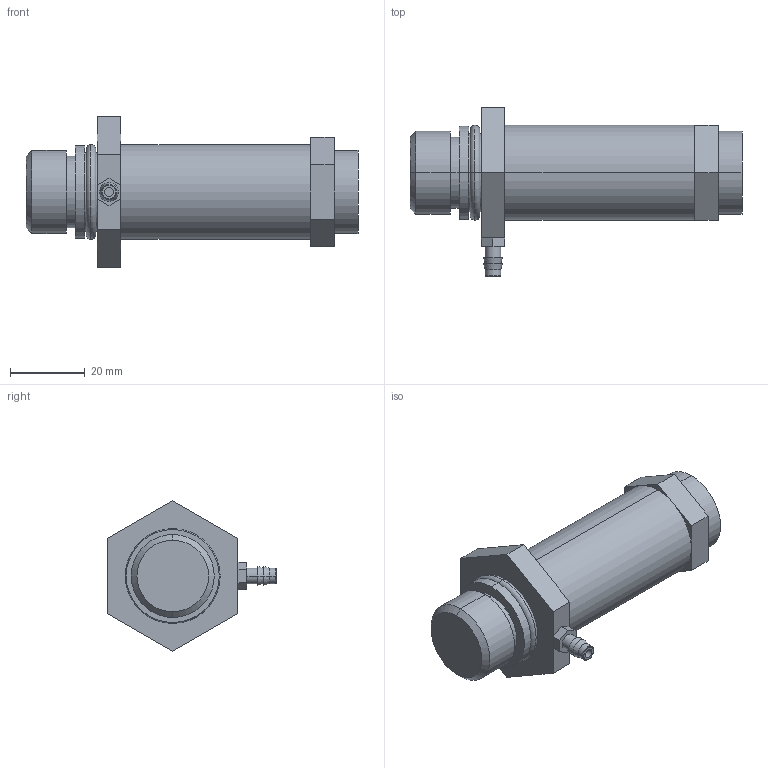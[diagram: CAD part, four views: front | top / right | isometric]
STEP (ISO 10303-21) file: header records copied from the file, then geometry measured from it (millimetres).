
FILE_DESCRIPTION((''),'2;1');
FILE_NAME('XF2_ASM','2017-08-24T',('jennifer.elliott'),('CenterLine (Windsor) Ltd - Automation Components Division'),'PRO/ENGINEER BY PARAMETRIC TECHNOLOGY CORPORATION, 2015030','PRO/ENGINEER BY PARAMETRIC TECHNOLOGY CORPORATION, 2015030','');
FILE_SCHEMA(('AUTOMOTIVE_DESIGN { 1 0 10303 214 1 1 1 1 }'));
Length unit declared in the file: inch
Products named in the file (7): PRT1064; PRT1065; PRT1066; PRT1067; PRT1068; TMP_DWG-3DSOLID_77; XF2_ASM
Assembly tree (6 placements, depth 2):
  XF2_ASM
    PRT1064
    PRT1065
    PRT1066
    PRT1067
    PRT1068
    TMP_DWG-3DSOLID_77
Bounding box: 88.9 x 45.24 x 40.33 mm (x, y, z)
Volume: 46183.6 mm3; surface area: 13479.8 mm2
Topology: 6 solids, 6 shells, 67 faces, 138 edges, 88 vertices
Faces by surface type: plane 35, cylinder 18, torus 8, cone 6
Entity records: 2230 total; most frequent: DIRECTION 358, CARTESIAN_POINT 325, ORIENTED_EDGE 276, AXIS2_PLACEMENT_3D 140, EDGE_CURVE 138, VERTEX_POINT 88, VECTOR 78, LINE 78
